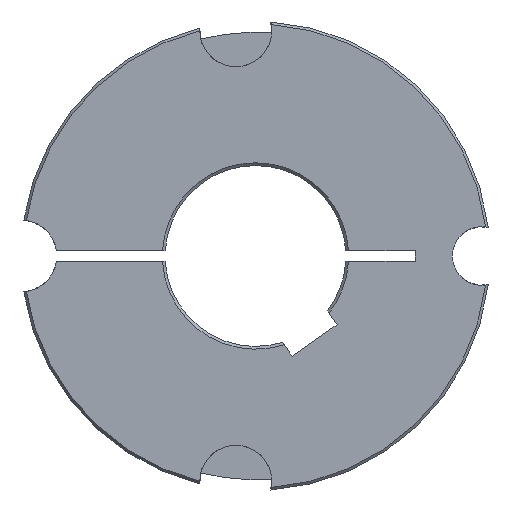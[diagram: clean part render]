
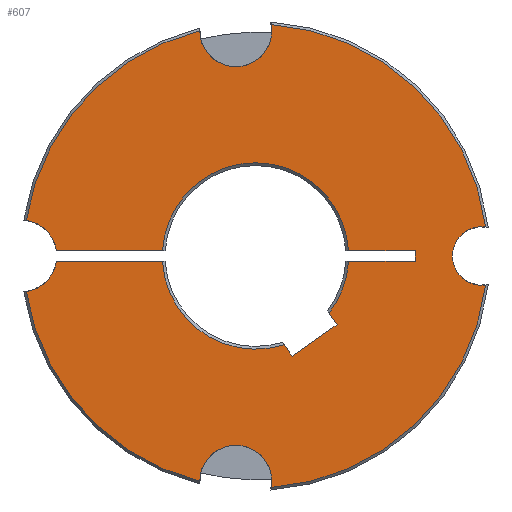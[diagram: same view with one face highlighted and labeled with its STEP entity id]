
A CAD part, front view. The second image highlights one B-rep face of the part: STEP entity #607.
In plain terms, the highlighted planar face has unit normal (0, -1, 0).
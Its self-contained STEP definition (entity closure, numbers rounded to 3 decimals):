
#45=LINE('',#889,#73);
#55=LINE('',#937,#83);
#58=LINE('',#961,#86);
#60=LINE('',#1100,#88);
#61=LINE('',#1102,#89);
#62=LINE('',#1104,#90);
#63=LINE('',#1107,#91);
#64=LINE('',#1109,#92);
#73=VECTOR('',#711,19.351);
#83=VECTOR('',#743,2.552);
#86=VECTOR('',#752,19.351);
#88=VECTOR('',#794,12.204);
#89=VECTOR('',#795,2.);
#90=VECTOR('',#796,12.204);
#91=VECTOR('',#799,10.);
#92=VECTOR('',#800,2.552);
#103=PLANE('',#666);
#125=FACE_OUTER_BOUND('',#159,.T.);
#159=EDGE_LOOP('',(#475,#476,#477,#478,#479,#480,#481,#482,#483,#484,#485,
#486,#487,#488,#489,#490,#491,#492,#493,#494));
#191=CIRCLE('',#650,5.36);
#196=CIRCLE('',#658,6.58);
#200=CIRCLE('',#664,17.);
#202=CIRCLE('',#667,17.);
#203=CIRCLE('',#668,17.);
#204=CIRCLE('',#669,42.325);
#205=CIRCLE('',#670,6.58);
#206=CIRCLE('',#671,42.325);
#207=CIRCLE('',#672,42.325);
#208=CIRCLE('',#673,6.58);
#209=CIRCLE('',#674,42.325);
#210=CIRCLE('',#675,6.58);
#232=VERTEX_POINT('',#886);
#233=VERTEX_POINT('',#888);
#250=VERTEX_POINT('',#934);
#251=VERTEX_POINT('',#936);
#256=VERTEX_POINT('',#956);
#257=VERTEX_POINT('',#960);
#261=VERTEX_POINT('',#989);
#262=VERTEX_POINT('',#994);
#272=VERTEX_POINT('',#1064);
#278=VERTEX_POINT('',#1092);
#279=VERTEX_POINT('',#1099);
#280=VERTEX_POINT('',#1101);
#281=VERTEX_POINT('',#1103);
#282=VERTEX_POINT('',#1106);
#283=VERTEX_POINT('',#1108);
#284=VERTEX_POINT('',#1111);
#285=VERTEX_POINT('',#1113);
#286=VERTEX_POINT('',#1116);
#287=VERTEX_POINT('',#1118);
#288=VERTEX_POINT('',#1120);
#297=EDGE_CURVE('',#233,#232,#45,.T.);
#318=EDGE_CURVE('',#251,#250,#55,.T.);
#326=EDGE_CURVE('',#257,#256,#58,.T.);
#333=EDGE_CURVE('',#262,#261,#191,.T.);
#347=EDGE_CURVE('',#232,#272,#196,.T.);
#354=EDGE_CURVE('',#278,#256,#200,.T.);
#356=EDGE_CURVE('',#278,#279,#60,.T.);
#357=EDGE_CURVE('',#279,#280,#61,.T.);
#358=EDGE_CURVE('',#280,#281,#62,.T.);
#359=EDGE_CURVE('',#251,#281,#202,.T.);
#360=EDGE_CURVE('',#250,#282,#63,.T.);
#361=EDGE_CURVE('',#282,#283,#64,.T.);
#362=EDGE_CURVE('',#233,#283,#203,.T.);
#363=EDGE_CURVE('',#284,#272,#204,.T.);
#364=EDGE_CURVE('',#284,#285,#205,.T.);
#365=EDGE_CURVE('',#262,#285,#206,.T.);
#366=EDGE_CURVE('',#286,#261,#207,.T.);
#367=EDGE_CURVE('',#286,#287,#208,.T.);
#368=EDGE_CURVE('',#288,#287,#209,.T.);
#369=EDGE_CURVE('',#288,#257,#210,.T.);
#475=ORIENTED_EDGE('',*,*,#354,.F.);
#476=ORIENTED_EDGE('',*,*,#356,.T.);
#477=ORIENTED_EDGE('',*,*,#357,.T.);
#478=ORIENTED_EDGE('',*,*,#358,.T.);
#479=ORIENTED_EDGE('',*,*,#359,.F.);
#480=ORIENTED_EDGE('',*,*,#318,.T.);
#481=ORIENTED_EDGE('',*,*,#360,.T.);
#482=ORIENTED_EDGE('',*,*,#361,.T.);
#483=ORIENTED_EDGE('',*,*,#362,.F.);
#484=ORIENTED_EDGE('',*,*,#297,.T.);
#485=ORIENTED_EDGE('',*,*,#347,.T.);
#486=ORIENTED_EDGE('',*,*,#363,.F.);
#487=ORIENTED_EDGE('',*,*,#364,.T.);
#488=ORIENTED_EDGE('',*,*,#365,.F.);
#489=ORIENTED_EDGE('',*,*,#333,.T.);
#490=ORIENTED_EDGE('',*,*,#366,.F.);
#491=ORIENTED_EDGE('',*,*,#367,.T.);
#492=ORIENTED_EDGE('',*,*,#368,.F.);
#493=ORIENTED_EDGE('',*,*,#369,.T.);
#494=ORIENTED_EDGE('',*,*,#326,.T.);
#607=ADVANCED_FACE('',(#125),#103,.T.);
#650=AXIS2_PLACEMENT_3D('',#995,#760,#761);
#658=AXIS2_PLACEMENT_3D('',#1069,#776,#777);
#664=AXIS2_PLACEMENT_3D('',#1096,#788,#789);
#666=AXIS2_PLACEMENT_3D('',#1098,#792,#793);
#667=AXIS2_PLACEMENT_3D('',#1105,#797,#798);
#668=AXIS2_PLACEMENT_3D('',#1110,#801,#802);
#669=AXIS2_PLACEMENT_3D('',#1112,#803,#804);
#670=AXIS2_PLACEMENT_3D('',#1114,#805,#806);
#671=AXIS2_PLACEMENT_3D('',#1115,#807,#808);
#672=AXIS2_PLACEMENT_3D('',#1117,#809,#810);
#673=AXIS2_PLACEMENT_3D('',#1119,#811,#812);
#674=AXIS2_PLACEMENT_3D('',#1121,#813,#814);
#675=AXIS2_PLACEMENT_3D('',#1122,#815,#816);
#711=DIRECTION('',(-1.,0.,0.));
#743=DIRECTION('',(0.574,0.,-0.819));
#752=DIRECTION('',(1.,0.,0.));
#760=DIRECTION('center_axis',(0.,1.,0.));
#761=DIRECTION('ref_axis',(-1.,0.,0.));
#776=DIRECTION('center_axis',(0.,1.,0.));
#777=DIRECTION('ref_axis',(-1.,0.,0.));
#788=DIRECTION('center_axis',(0.,-1.,0.));
#789=DIRECTION('ref_axis',(1.,0.,0.));
#792=DIRECTION('center_axis',(0.,-1.,0.));
#793=DIRECTION('ref_axis',(0.,0.,-1.));
#794=DIRECTION('',(1.,0.,0.));
#795=DIRECTION('',(0.,0.,-1.));
#796=DIRECTION('',(-1.,0.,0.));
#797=DIRECTION('center_axis',(0.,-1.,0.));
#798=DIRECTION('ref_axis',(1.,0.,0.));
#799=DIRECTION('',(-0.819,0.,-0.574));
#800=DIRECTION('',(-0.574,0.,0.819));
#801=DIRECTION('center_axis',(0.,-1.,0.));
#802=DIRECTION('ref_axis',(-1.,0.,0.));
#803=DIRECTION('center_axis',(0.,1.,0.));
#804=DIRECTION('ref_axis',(0.,0.,-1.));
#805=DIRECTION('center_axis',(0.,1.,0.));
#806=DIRECTION('ref_axis',(-1.,0.,0.));
#807=DIRECTION('center_axis',(0.,1.,0.));
#808=DIRECTION('ref_axis',(0.,0.,-1.));
#809=DIRECTION('center_axis',(0.,1.,0.));
#810=DIRECTION('ref_axis',(0.,0.,1.));
#811=DIRECTION('center_axis',(0.,1.,0.));
#812=DIRECTION('ref_axis',(-1.,0.,0.));
#813=DIRECTION('center_axis',(0.,1.,0.));
#814=DIRECTION('ref_axis',(0.,0.,1.));
#815=DIRECTION('center_axis',(0.,1.,0.));
#816=DIRECTION('ref_axis',(-1.,0.,0.));
#886=CARTESIAN_POINT('',(-36.321,-6.345,-19.071));
#888=CARTESIAN_POINT('',(-16.971,-6.345,-19.071));
#889=CARTESIAN_POINT('',(-8.235,-6.345,-19.071));
#934=CARTESIAN_POINT('',(14.879,-6.345,-30.603));
#936=CARTESIAN_POINT('',(13.415,-6.345,-28.513));
#937=CARTESIAN_POINT('',(18.666,-6.345,-36.012));
#956=CARTESIAN_POINT('',(-16.971,-6.345,-17.071));
#960=CARTESIAN_POINT('',(-36.321,-6.345,-17.071));
#961=CARTESIAN_POINT('',(-21.407,-6.345,-17.071));
#989=CARTESIAN_POINT('',(41.99,-6.345,-12.759));
#994=CARTESIAN_POINT('',(41.99,-6.345,-23.384));
#995=CARTESIAN_POINT('Origin',(41.28,-6.345,-18.071));
#1064=CARTESIAN_POINT('',(-41.822,-6.345,-24.574));
#1069=CARTESIAN_POINT('Origin',(-42.825,-6.345,-18.071));
#1092=CARTESIAN_POINT('',(16.971,-6.345,-17.071));
#1096=CARTESIAN_POINT('Origin',(0.,-6.345,-18.071));
#1098=CARTESIAN_POINT('Origin',(0.,-6.345,-60.896));
#1099=CARTESIAN_POINT('',(29.175,-6.345,-17.071));
#1100=CARTESIAN_POINT('',(8.235,-6.345,-17.071));
#1101=CARTESIAN_POINT('',(29.175,-6.345,-19.071));
#1102=CARTESIAN_POINT('',(29.175,-6.345,-38.984));
#1103=CARTESIAN_POINT('',(16.971,-6.345,-19.071));
#1104=CARTESIAN_POINT('',(14.588,-6.345,-19.071));
#1105=CARTESIAN_POINT('Origin',(0.,-6.345,-18.071));
#1106=CARTESIAN_POINT('',(6.687,-6.345,-36.339));
#1107=CARTESIAN_POINT('',(2.771,-6.345,-39.082));
#1108=CARTESIAN_POINT('',(5.224,-6.345,-34.249));
#1109=CARTESIAN_POINT('',(11.356,-6.345,-43.007));
#1110=CARTESIAN_POINT('Origin',(0.,-6.345,-18.071));
#1111=CARTESIAN_POINT('',(-10.178,-6.345,-59.154));
#1112=CARTESIAN_POINT('Origin',(0.,-6.345,-18.071));
#1113=CARTESIAN_POINT('',(2.889,-6.345,-60.298));
#1114=CARTESIAN_POINT('Origin',(-3.598,-6.345,-59.194));
#1115=CARTESIAN_POINT('Origin',(0.,-6.345,-18.071));
#1116=CARTESIAN_POINT('',(2.889,-6.345,24.155));
#1117=CARTESIAN_POINT('Origin',(0.,-6.345,-18.071));
#1118=CARTESIAN_POINT('',(-10.178,-6.345,23.012));
#1119=CARTESIAN_POINT('Origin',(-3.598,-6.345,23.052));
#1120=CARTESIAN_POINT('',(-41.822,-6.345,-11.568));
#1121=CARTESIAN_POINT('Origin',(0.,-6.345,-18.071));
#1122=CARTESIAN_POINT('Origin',(-42.825,-6.345,-18.071));
